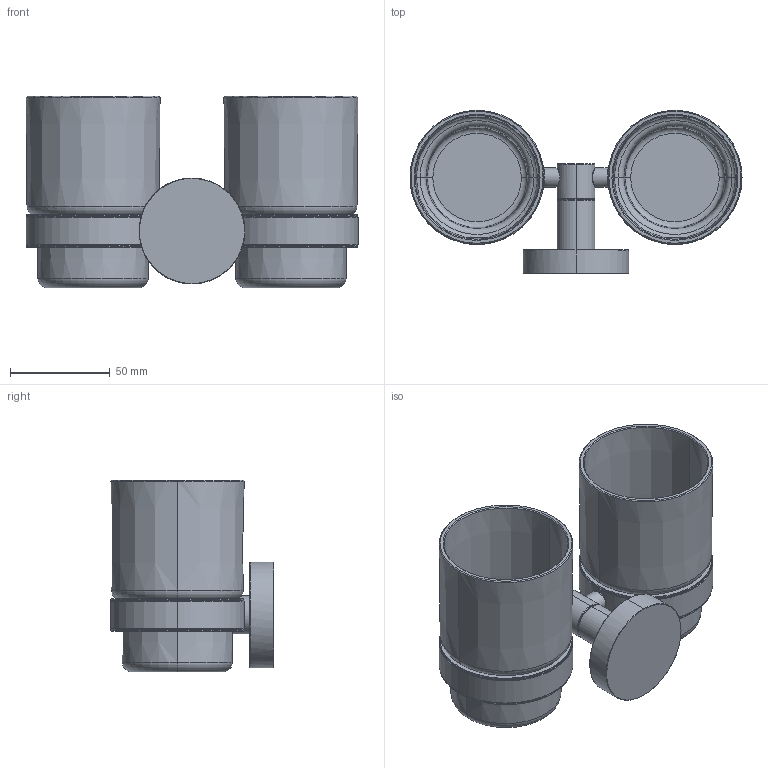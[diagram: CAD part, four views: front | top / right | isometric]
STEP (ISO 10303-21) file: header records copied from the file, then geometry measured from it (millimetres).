
FILE_DESCRIPTION(('THIS FILE CONTAINS SOME STEP INSTANCES'),'1');
FILE_NAME('HAR 013-light.stp','2015-10-23T15:49:36',('UNDEFINED'),('UNDEFINED'),'T-FLEX CAD STEP converter','T-FLEX CAD','');
FILE_SCHEMA(('CONFIG_CONTROL_DESIGN'));
Length unit declared in the file: metre
Products named in the file (5): PlasticRing(Tumbler,Dish); PlasticRing(Tumbler,Dish)1; har_013; Tumbler-light
Bounding box: 166.1 x 81.65 x 96 mm (x, y, z)
Volume: 166904.8 mm3; surface area: 118752.4 mm2
Topology: 5 solids, 5 shells, 184 faces, 373 edges, 212 vertices
Faces by surface type: cone 88, cylinder 40, plane 25, torus 24, bspline 7
Entity records: 7736 total; most frequent: CARTESIAN_POINT 4401, ORIENTED_EDGE 746, DIRECTION 577, EDGE_CURVE 373, AXIS2_PLACEMENT_3D 225, VERTEX_POINT 212, EDGE_LOOP 205, ADVANCED_FACE 184
